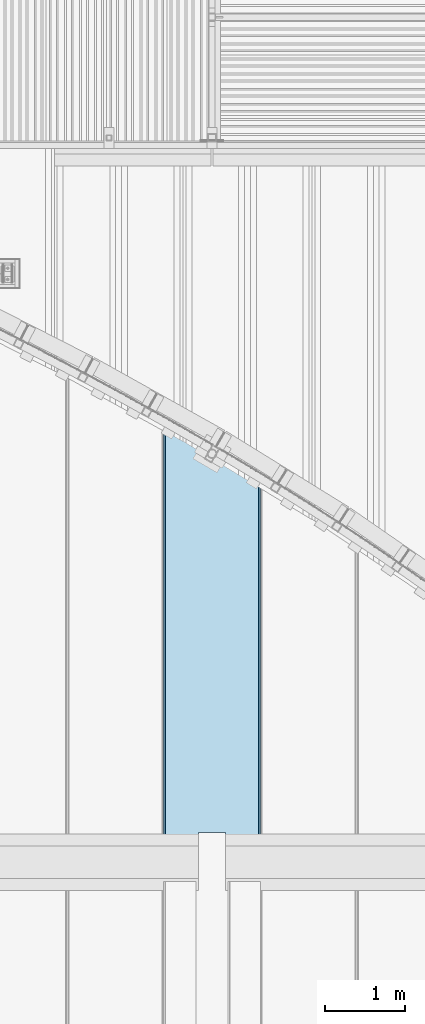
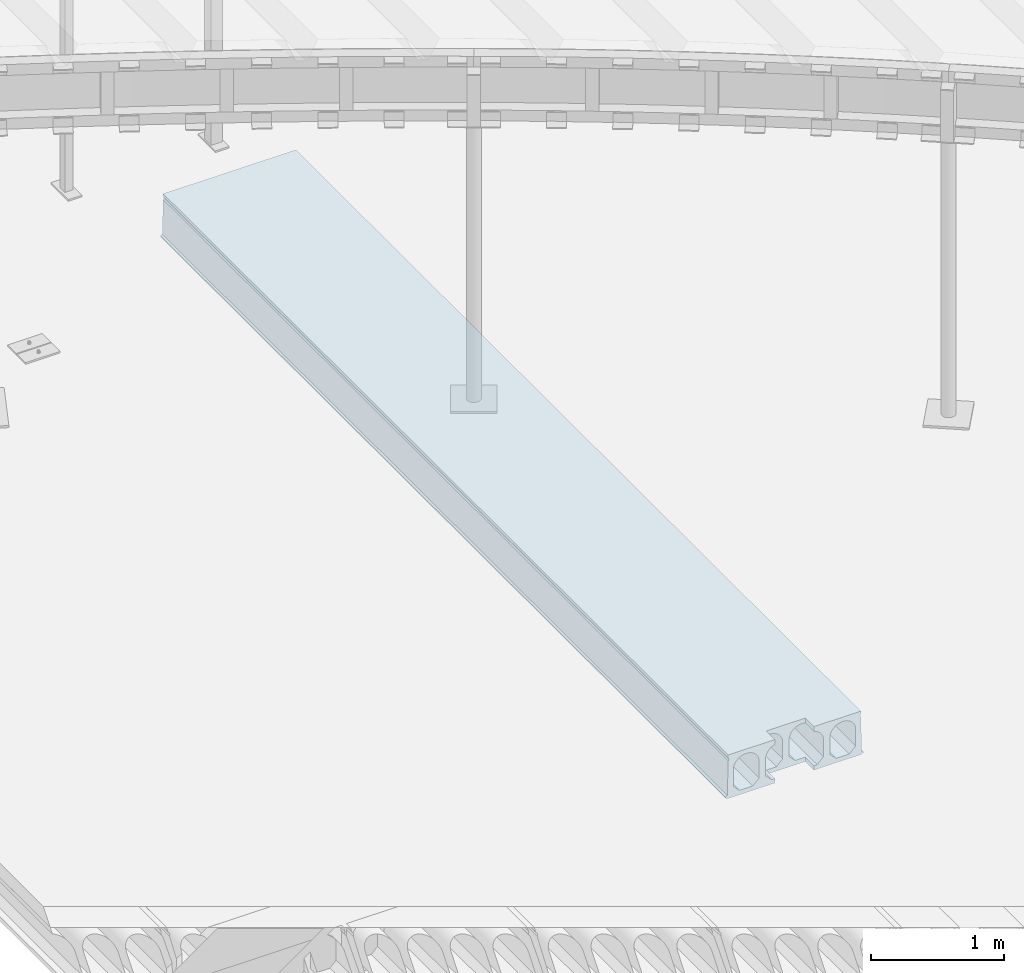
# One storey, part 57 of 98: 1 slab.
"""IFC2X3 building model written with IfcOpenShell, lengths in millimetres."""

from ifc_helpers import new_model, entity, si_unit, converted_unit, derived_unit, direction, frame, origin_with_axes, place, context, subcontext, project, spatial, faceted_brep, material, type_object, element, save


model = new_model("IFC2X3")

# Units and contexts
model_context = context("Model", 3, precision=0.01, world=frame((0.0, 4.29681676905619e-09, 0.0)), true_north=direction((4.01073788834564e-13, 1.0)))
plan_context = context("Plan", 3, precision=0.01, world=frame((0.0, 4.29681676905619e-09, 0.0)), true_north=direction((4.01073788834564e-13, 1.0)))
body_context = subcontext(model_context, "Body", "Model", "MODEL_VIEW")
ifc_project = project(units=[converted_unit("PLANEANGLEUNIT", "DEGREE", entity("IfcPositiveLengthMeasure", 0.0174532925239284), si_unit("PLANEANGLEUNIT", "RADIAN"), dimensions=[0, 0, 0, 0, 0, 0, 0]), si_unit("AREAUNIT", "SQUARE_METRE"), si_unit("LENGTHUNIT", "METRE", prefix="MILLI"), si_unit("MASSUNIT", "GRAM", prefix="KILO"), si_unit("POWERUNIT", "WATT"), si_unit("PRESSUREUNIT", "PASCAL"), si_unit("FORCEUNIT", "NEWTON", prefix="KILO"), si_unit("ELECTRICCURRENTUNIT", "AMPERE"), si_unit("THERMODYNAMICTEMPERATUREUNIT", "DEGREE_CELSIUS"), si_unit("TIMEUNIT", "SECOND"), si_unit("VOLUMEUNIT", "CUBIC_METRE"), derived_unit("LINEARVELOCITYUNIT", [(si_unit("LENGTHUNIT", "METRE"), 1), (si_unit("TIMEUNIT", "SECOND"), -1)]), derived_unit("VOLUMETRICFLOWRATEUNIT", [(si_unit("VOLUMEUNIT", "CUBIC_METRE"), 1), (si_unit("TIMEUNIT", "SECOND"), -1)]), derived_unit("THERMALTRANSMITTANCEUNIT", [(si_unit("POWERUNIT", "WATT"), 1), (si_unit("THERMODYNAMICTEMPERATUREUNIT", "KELVIN"), -1), (si_unit("AREAUNIT", "SQUARE_METRE"), -1)])], contexts=[model_context, plan_context])

# Site, building, storey
site_placement = place(None, frame((0.0, -4.29681676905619e-09, 0.0), z_axis=(0.0, 0.0, 1.0), x_axis=(1.0, 0.0, 0.0)))
site = spatial("IfcSite", under=ifc_project, at=site_placement, Name="Gardermoen", CompositionType="ELEMENT")
building_placement = place(site_placement, frame((0.0, 4.29681676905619e-09, 0.0), z_axis=(0.0, 0.0, 1.0), x_axis=(1.0, 0.0, 0.0)))
building = spatial("IfcBuilding", under=site, at=building_placement, Name="TS", CompositionType="ELEMENT")
storey_placement = place(building_placement, origin_with_axes())
storey = spatial("IfcBuildingStorey", under=building, at=storey_placement, Name="D", CompositionType="ELEMENT", Elevation=0.0)

# Slab
ifc_material = material(Name="CONCRETE/C45/55")
slab_type = type_object("IfcSlabType", Name="HD400", PredefinedType="NOTDEFINED")
slab_placement = place(storey_placement, frame((519999.999766, 405739.995625, 203600.0), z_axis=(0.0, 0.0, 1.0), x_axis=(0.0, 1.0, 0.0)))
element("IfcSlab", 1, at=slab_placement, inside=storey, type_object=slab_type, material=ifc_material, Name="HULLDEKKE", ObjectType="HD400", PredefinedType="FLOOR", context=body_context, shape_type="Brep", body=[
    faceted_brep([(0.0, 170.000043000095, 200.0), (0.0, 170.000043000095, 155.84810220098), (130.001160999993, 170.000043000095, 155.84810220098), (130.001160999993, 170.000043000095, 200.0), (0.0, 170.000043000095, -160.0), (0.0, 170.000043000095, -200.0), (130.001160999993, 170.000043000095, -200.0), (130.001160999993, 170.000043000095, -160.0), (130.001160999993, -169.999956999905, -160.0), (130.001160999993, -169.999956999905, -200.0), (0.0, -170.000323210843, -200.0), (0.0, -170.000323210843, -160.0), (130.001160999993, -169.999956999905, 200.0), (130.001160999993, -169.999956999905, 155.848127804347), (0.0, -170.000323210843, 155.848018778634), (0.0, -170.000323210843, 200.0), (130.001160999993, 167.617117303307, 156.55752991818), (130.001160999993, 158.516891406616, 158.465646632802), (130.001160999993, 149.290176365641, 159.615755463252), (130.001160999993, 140.0, 160.0), (130.001160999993, 130.709823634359, 159.615755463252), (130.001160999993, 121.483108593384, 158.465646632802), (130.001160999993, 112.382882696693, 156.55752991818), (130.001160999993, 103.471309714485, 153.904439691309), (130.001160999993, 94.8092647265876, 150.524499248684), (130.001160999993, 86.4559182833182, 146.440797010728), (130.001160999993, 78.4683322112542, 141.681228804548), (130.001160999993, 70.9010698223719, 136.278307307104), (130.001160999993, 63.8058231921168, 130.268939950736), (130.001160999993, 57.2310600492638, 123.694176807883), (130.001160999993, 51.2216926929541, 116.598930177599), (130.001160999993, 45.8187711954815, 109.031667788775), (130.001160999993, 41.0592029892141, 101.044081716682), (130.001160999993, 36.9755007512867, 92.6907352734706), (130.001160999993, 33.5955603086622, 84.028690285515), (130.001160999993, 30.942470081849, 75.1171173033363), (130.001160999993, 29.0343533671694, 66.0168914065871), (130.001160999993, 27.8842445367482, 56.7901763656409), (130.001160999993, 27.5, 47.5), (130.001160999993, 27.5, -105.0), (130.001160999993, 82.5, -160.0), (130.001160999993, -82.5, -160.0), (130.001160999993, -27.5, -105.0), (130.001160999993, -27.5, 47.5), (130.001160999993, -27.8842445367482, 56.7901763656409), (130.001160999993, -29.0343533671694, 66.0168914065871), (130.001160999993, -30.942470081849, 75.1171173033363), (130.001160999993, -33.5955603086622, 84.028690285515), (130.001160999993, -36.9755007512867, 92.6907352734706), (130.001160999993, -41.0592029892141, 101.044081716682), (130.001160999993, -45.8187711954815, 109.031667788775), (130.001160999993, -51.2216926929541, 116.598930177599), (130.001160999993, -57.2310600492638, 123.694176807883), (130.001160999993, -63.8058231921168, 130.268939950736), (130.001160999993, -70.9010698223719, 136.278307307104), (130.001160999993, -78.4683322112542, 141.681228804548), (130.001160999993, -86.4559182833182, 146.440797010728), (130.001160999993, -94.8092647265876, 150.524499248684), (130.001160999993, -103.471309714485, 153.904439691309), (130.001160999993, -112.382882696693, 156.55752991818), (130.001160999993, -121.483108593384, 158.465646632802), (130.001160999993, -130.709823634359, 159.615755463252), (130.001160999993, -140.0, 160.0), (130.001160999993, -149.290176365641, 159.615755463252), (130.001160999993, -158.516891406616, 158.465646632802), (130.001160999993, -167.617117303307, 156.55752991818), (0.0, -185.190735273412, 150.524499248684), (0.0, -176.528690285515, 153.904439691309), (8520.00875000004, -176.528690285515, 153.904439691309), (8520.00875000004, -185.190735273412, 150.524499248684), (0.0, -193.544081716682, 146.440797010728), (8520.00875000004, -193.544081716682, 146.440797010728), (0.0, -201.531667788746, 141.681228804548), (8520.00875000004, -201.531667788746, 141.681228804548), (0.0, -209.098930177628, 136.278307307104), (8520.00875000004, -209.098930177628, 136.278307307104), (0.0, -216.194176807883, 130.268939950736), (8520.00875000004, -216.194176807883, 130.268939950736), (0.0, -222.768939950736, 123.694176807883), (8520.00875000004, -222.768939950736, 123.694176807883), (0.0, -228.778307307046, 116.598930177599), (8520.00875000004, -228.778307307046, 116.598930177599), (0.0, -234.181228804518, 109.031667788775), (8520.00875000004, -234.181228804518, 109.031667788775), (0.0, -238.940797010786, 101.044081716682), (8520.00875000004, -238.940797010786, 101.044081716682), (0.0, -243.024499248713, 92.6907352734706), (8520.00875000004, -243.024499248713, 92.6907352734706), (0.0, -246.404439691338, 84.028690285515), (8520.00875000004, -246.404439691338, 84.028690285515), (0.0, -249.057529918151, 75.1171173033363), (8520.00875000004, -249.057529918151, 75.1171173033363), (0.0, -250.965646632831, 66.0168914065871), (8520.00875000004, -250.965646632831, 66.0168914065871), (0.0, -252.115755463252, 56.7901763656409), (8520.00875000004, -252.115755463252, 56.7901763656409), (0.0, -252.5, 47.5), (8520.00875000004, -252.5, 47.5), (0.0, -252.5, -105.0), (8520.00875000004, -252.5, -105.0), (0.0, -197.5, -160.0), (8520.00875000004, -197.5, -160.0), (0.0, 577.5, 175.0), (0.0, 577.5, 200.0), (8520.00875000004, 577.5, 200.0), (8520.00875000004, 577.5, 175.0), (0.0, 570.0, 160.0), (8520.00875000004, 570.0, 160.0), (0.0, 577.5, 145.0), (8520.00875000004, 577.5, 145.0), (0.0, 585.0, -170.0), (8520.00875000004, 585.0, -170.0), (0.0, 600.0, -180.0), (8520.00875000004, 600.0, -180.0), (0.0, 600.0, -190.0), (8520.00875000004, 600.0, -190.0), (0.0, 583.380004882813, -200.0), (8520.00875000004, 583.380004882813, -200.0), (8520.00875000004, -583.380004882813, -200.0), (0.0, -583.380004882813, -200.0), (0.0, -600.0, -190.0), (8520.00875000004, -600.0, -190.0), (0.0, -600.0, -180.0), (8520.00875000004, -600.0, -180.0), (0.0, -585.0, -170.0), (8520.00875000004, -585.0, -170.0), (0.0, -577.5, 145.0), (8520.00875000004, -577.5, 145.0), (0.0, -570.0, 160.0), (8520.00875000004, -570.0, 160.0), (0.0, -577.5, 175.0), (8520.00875000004, -577.5, 175.0), (0.0, -577.5, 200.0), (8520.00875000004, -577.5, 200.0), (0.0, -307.5, -105.0), (0.0, -362.5, -160.0), (8520.00875000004, -362.5, -160.0), (8520.00875000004, -307.5, -105.0), (0.0, -307.5, 47.5), (8520.00875000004, -307.5, 47.5), (0.0, -307.884244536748, 56.7901763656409), (8520.00875000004, -307.884244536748, 56.7901763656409), (0.0, -309.034353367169, 66.0168914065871), (8520.00875000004, -309.034353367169, 66.0168914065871), (0.0, -310.942470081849, 75.1171173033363), (8520.00875000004, -310.942470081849, 75.1171173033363), (0.0, -313.595560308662, 84.028690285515), (8520.00875000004, -313.595560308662, 84.028690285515), (0.0, -316.975500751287, 92.6907352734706), (8520.00875000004, -316.975500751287, 92.6907352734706), (0.0, -321.059202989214, 101.044081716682), (8520.00875000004, -321.059202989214, 101.044081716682), (0.0, -325.818771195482, 109.031667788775), (8520.00875000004, -325.818771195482, 109.031667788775), (0.0, -331.221692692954, 116.598930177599), (8520.00875000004, -331.221692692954, 116.598930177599), (0.0, -337.231060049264, 123.694176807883), (8520.00875000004, -337.231060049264, 123.694176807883), (0.0, -343.805823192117, 130.268939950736), (8520.00875000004, -343.805823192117, 130.268939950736), (0.0, -350.901069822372, 136.278307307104), (8520.00875000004, -350.901069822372, 136.278307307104), (0.0, -358.468332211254, 141.681228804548), (8520.00875000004, -358.468332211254, 141.681228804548), (0.0, -366.455918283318, 146.440797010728), (8520.00875000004, -366.455918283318, 146.440797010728), (0.0, -374.809264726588, 150.524499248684), (8520.00875000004, -374.809264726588, 150.524499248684), (0.0, -383.471309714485, 153.904439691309), (8520.00875000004, -383.471309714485, 153.904439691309), (0.0, -392.382882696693, 156.55752991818), (8520.00875000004, -392.382882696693, 156.55752991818), (0.0, -401.483108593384, 158.465646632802), (8520.00875000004, -401.483108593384, 158.465646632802), (0.0, -410.709823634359, 159.615755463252), (8520.00875000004, -410.709823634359, 159.615755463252), (0.0, -420.0, 160.0), (8520.00875000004, -420.0, 160.0), (0.0, -429.290176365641, 159.615755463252), (8520.00875000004, -429.290176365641, 159.615755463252), (0.0, -438.516891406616, 158.465646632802), (8520.00875000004, -438.516891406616, 158.465646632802), (0.0, -447.617117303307, 156.55752991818), (8520.00875000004, -447.617117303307, 156.55752991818), (0.0, -456.528690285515, 153.904439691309), (8520.00875000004, -456.528690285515, 153.904439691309), (0.0, -465.190735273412, 150.524499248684), (8520.00875000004, -465.190735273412, 150.524499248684), (0.0, -473.544081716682, 146.440797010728), (8520.00875000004, -473.544081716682, 146.440797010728), (0.0, -481.531667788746, 141.681228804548), (8520.00875000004, -481.531667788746, 141.681228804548), (0.0, -489.098930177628, 136.278307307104), (8520.00875000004, -489.098930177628, 136.278307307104), (0.0, -496.194176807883, 130.268939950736), (8520.00875000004, -496.194176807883, 130.268939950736), (0.0, -502.768939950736, 123.694176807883), (8520.00875000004, -502.768939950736, 123.694176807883), (0.0, -508.778307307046, 116.598930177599), (8520.00875000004, -508.778307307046, 116.598930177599), (0.0, -514.181228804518, 109.031667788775), (8520.00875000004, -514.181228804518, 109.031667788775), (0.0, -518.940797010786, 101.044081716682), (8520.00875000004, -518.940797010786, 101.044081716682), (0.0, -523.024499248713, 92.6907352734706), (8520.00875000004, -523.024499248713, 92.6907352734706), (0.0, -526.404439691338, 84.028690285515), (8520.00875000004, -526.404439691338, 84.028690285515), (0.0, -529.057529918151, 75.1171173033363), (8520.00875000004, -529.057529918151, 75.1171173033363), (0.0, -530.965646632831, 66.0168914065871), (8520.00875000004, -530.965646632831, 66.0168914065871), (0.0, -532.115755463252, 56.7901763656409), (8520.00875000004, -532.115755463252, 56.7901763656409), (0.0, -532.5, 47.5), (8520.00875000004, -532.5, 47.5), (0.0, -532.5, -105.0), (8520.00875000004, -532.5, -105.0), (0.0, -477.5, -160.0), (8520.00875000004, -477.5, -160.0), (8520.00875000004, -167.617117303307, 156.55752991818), (8520.00875000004, -158.516891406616, 158.465646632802), (8520.00875000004, -149.290176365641, 159.615755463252), (8520.00875000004, -140.0, 160.0), (8520.00875000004, -130.709823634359, 159.615755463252), (8520.00875000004, -121.483108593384, 158.465646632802), (8520.00875000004, -112.382882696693, 156.55752991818), (8520.00875000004, -103.471309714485, 153.904439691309), (8520.00875000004, -94.8092647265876, 150.524499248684), (8520.00875000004, -86.4559182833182, 146.440797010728), (8520.00875000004, -78.4683322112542, 141.681228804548), (8520.00875000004, -70.9010698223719, 136.278307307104), (8520.00875000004, -63.8058231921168, 130.268939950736), (8520.00875000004, -57.2310600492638, 123.694176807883), (8520.00875000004, -51.2216926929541, 116.598930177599), (8520.00875000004, -45.8187711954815, 109.031667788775), (8520.00875000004, -41.0592029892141, 101.044081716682), (8520.00875000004, -36.9755007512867, 92.6907352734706), (8520.00875000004, -33.5955603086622, 84.028690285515), (8520.00875000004, -30.942470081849, 75.1171173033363), (8520.00875000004, -29.0343533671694, 66.0168914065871), (8520.00875000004, -27.8842445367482, 56.7901763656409), (8520.00875000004, -27.5, 47.5), (8520.00875000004, -27.5, -105.0), (8520.00875000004, -82.5, -160.0), (8520.00875000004, 27.5, -105.0), (8520.00875000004, 82.5, -160.0), (8520.00875000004, 27.5, 47.5), (8520.00875000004, 27.8842445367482, 56.7901763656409), (8520.00875000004, 29.0343533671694, 66.0168914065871), (8520.00875000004, 30.942470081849, 75.1171173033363), (8520.00875000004, 33.5955603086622, 84.028690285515), (8520.00875000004, 36.9755007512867, 92.6907352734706), (8520.00875000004, 41.0592029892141, 101.044081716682), (8520.00875000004, 45.8187711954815, 109.031667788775), (8520.00875000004, 51.2216926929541, 116.598930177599), (8520.00875000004, 57.2310600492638, 123.694176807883), (8520.00875000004, 63.8058231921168, 130.268939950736), (8520.00875000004, 70.9010698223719, 136.278307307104), (8520.00875000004, 78.4683322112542, 141.681228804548), (8520.00875000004, 86.4559182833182, 146.440797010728), (8520.00875000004, 94.8092647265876, 150.524499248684), (8520.00875000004, 103.471309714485, 153.904439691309), (8520.00875000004, 112.382882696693, 156.55752991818), (8520.00875000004, 121.483108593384, 158.465646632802), (8520.00875000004, 130.709823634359, 159.615755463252), (8520.00875000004, 140.0, 160.0), (8520.00875000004, 149.290176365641, 159.615755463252), (8520.00875000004, 158.516891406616, 158.465646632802), (8520.00875000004, 167.617117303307, 156.55752991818), (0.0, 176.528690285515, 153.904439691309), (8520.00875000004, 176.528690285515, 153.904439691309), (0.0, 185.190735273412, 150.524499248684), (8520.00875000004, 185.190735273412, 150.524499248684), (0.0, 193.544081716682, 146.440797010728), (8520.00875000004, 193.544081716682, 146.440797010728), (0.0, 201.531667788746, 141.681228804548), (8520.00875000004, 201.531667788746, 141.681228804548), (0.0, 209.098930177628, 136.278307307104), (8520.00875000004, 209.098930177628, 136.278307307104), (0.0, 216.194176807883, 130.268939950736), (8520.00875000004, 216.194176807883, 130.268939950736), (0.0, 222.768939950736, 123.694176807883), (8520.00875000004, 222.768939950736, 123.694176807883), (0.0, 228.778307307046, 116.598930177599), (8520.00875000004, 228.778307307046, 116.598930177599), (0.0, 234.181228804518, 109.031667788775), (8520.00875000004, 234.181228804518, 109.031667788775), (0.0, 238.940797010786, 101.044081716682), (8520.00875000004, 238.940797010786, 101.044081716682), (0.0, 243.024499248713, 92.6907352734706), (8520.00875000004, 243.024499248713, 92.6907352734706), (0.0, 246.404439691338, 84.028690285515), (8520.00875000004, 246.404439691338, 84.028690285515), (0.0, 249.057529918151, 75.1171173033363), (8520.00875000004, 249.057529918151, 75.1171173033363), (0.0, 250.965646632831, 66.0168914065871), (8520.00875000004, 250.965646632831, 66.0168914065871), (0.0, 252.115755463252, 56.7901763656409), (8520.00875000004, 252.115755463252, 56.7901763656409), (0.0, 252.5, 47.5), (8520.00875000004, 252.5, 47.5), (0.0, 252.5, -105.0), (8520.00875000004, 252.5, -105.0), (0.0, 197.5, -160.0), (8520.00875000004, 197.5, -160.0), (0.0, 362.5, -160.0), (0.0, 307.5, -105.0), (8520.00875000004, 307.5, -105.0), (8520.00875000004, 362.5, -160.0), (0.0, 307.5, 47.5), (8520.00875000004, 307.5, 47.5), (0.0, 307.884244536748, 56.7901763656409), (8520.00875000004, 307.884244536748, 56.7901763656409), (0.0, 309.034353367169, 66.0168914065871), (8520.00875000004, 309.034353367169, 66.0168914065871), (0.0, 310.942470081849, 75.1171173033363), (8520.00875000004, 310.942470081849, 75.1171173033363), (0.0, 313.595560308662, 84.028690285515), (8520.00875000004, 313.595560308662, 84.028690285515), (0.0, 316.975500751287, 92.6907352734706), (8520.00875000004, 316.975500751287, 92.6907352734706), (0.0, 321.059202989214, 101.044081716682), (8520.00875000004, 321.059202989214, 101.044081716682), (0.0, 325.818771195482, 109.031667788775), (8520.00875000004, 325.818771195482, 109.031667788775), (0.0, 331.221692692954, 116.598930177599), (8520.00875000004, 331.221692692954, 116.598930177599), (0.0, 337.231060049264, 123.694176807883), (8520.00875000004, 337.231060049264, 123.694176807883), (0.0, 343.805823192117, 130.268939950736), (8520.00875000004, 343.805823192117, 130.268939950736), (0.0, 350.901069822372, 136.278307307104), (8520.00875000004, 350.901069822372, 136.278307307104), (0.0, 358.468332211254, 141.681228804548), (8520.00875000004, 358.468332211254, 141.681228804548), (0.0, 366.455918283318, 146.440797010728), (8520.00875000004, 366.455918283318, 146.440797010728), (0.0, 374.809264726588, 150.524499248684), (8520.00875000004, 374.809264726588, 150.524499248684), (0.0, 383.471309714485, 153.904439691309), (8520.00875000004, 383.471309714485, 153.904439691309), (0.0, 392.382882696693, 156.55752991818), (8520.00875000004, 392.382882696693, 156.55752991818), (0.0, 401.483108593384, 158.465646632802), (8520.00875000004, 401.483108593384, 158.465646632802), (0.0, 410.709823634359, 159.615755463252), (8520.00875000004, 410.709823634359, 159.615755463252), (0.0, 420.0, 160.0), (8520.00875000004, 420.0, 160.0), (0.0, 429.290176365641, 159.615755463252), (8520.00875000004, 429.290176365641, 159.615755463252), (0.0, 438.516891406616, 158.465646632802), (8520.00875000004, 438.516891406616, 158.465646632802), (0.0, 447.617117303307, 156.55752991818), (8520.00875000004, 447.617117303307, 156.55752991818), (0.0, 456.528690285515, 153.904439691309), (8520.00875000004, 456.528690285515, 153.904439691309), (0.0, 465.190735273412, 150.524499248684), (8520.00875000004, 465.190735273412, 150.524499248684), (0.0, 473.544081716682, 146.440797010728), (8520.00875000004, 473.544081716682, 146.440797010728), (0.0, 481.531667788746, 141.681228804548), (8520.00875000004, 481.531667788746, 141.681228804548), (0.0, 489.098930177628, 136.278307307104), (8520.00875000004, 489.098930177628, 136.278307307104), (0.0, 496.194176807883, 130.268939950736), (8520.00875000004, 496.194176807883, 130.268939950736), (0.0, 502.768939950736, 123.694176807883), (8520.00875000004, 502.768939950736, 123.694176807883), (0.0, 508.778307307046, 116.598930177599), (8520.00875000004, 508.778307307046, 116.598930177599), (0.0, 514.181228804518, 109.031667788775), (8520.00875000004, 514.181228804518, 109.031667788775), (0.0, 518.940797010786, 101.044081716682), (8520.00875000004, 518.940797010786, 101.044081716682), (0.0, 523.024499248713, 92.6907352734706), (8520.00875000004, 523.024499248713, 92.6907352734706), (0.0, 526.404439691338, 84.028690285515), (8520.00875000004, 526.404439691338, 84.028690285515), (0.0, 529.057529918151, 75.1171173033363), (8520.00875000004, 529.057529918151, 75.1171173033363), (0.0, 530.965646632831, 66.0168914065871), (8520.00875000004, 530.965646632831, 66.0168914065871), (0.0, 532.115755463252, 56.7901763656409), (8520.00875000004, 532.115755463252, 56.7901763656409), (0.0, 532.5, 47.5), (8520.00875000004, 532.5, 47.5), (0.0, 532.5, -105.0), (8520.00875000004, 532.5, -105.0), (0.0, 477.5, -160.0), (8520.00875000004, 477.5, -160.0)], [[[0, 1, 2, 3]], [[4, 5, 6, 7]], [[8, 9, 10, 11]], [[12, 13, 14, 15]], [[3, 2, 16, 17, 18, 19, 20, 21, 22, 23, 24, 25, 26, 27, 28, 29, 30, 31, 32, 33, 34, 35, 36, 37, 38, 39, 40, 7, 6, 9, 8, 41, 42, 43, 44, 45, 46, 47, 48, 49, 50, 51, 52, 53, 54, 55, 56, 57, 58, 59, 60, 61, 62, 63, 64, 65, 13, 12]], [[66, 67, 68, 69]], [[70, 66, 69, 71]], [[72, 70, 71, 73]], [[74, 72, 73, 75]], [[76, 74, 75, 77]], [[78, 76, 77, 79]], [[80, 78, 79, 81]], [[82, 80, 81, 83]], [[84, 82, 83, 85]], [[86, 84, 85, 87]], [[88, 86, 87, 89]], [[90, 88, 89, 91]], [[92, 90, 91, 93]], [[94, 92, 93, 95]], [[96, 94, 95, 97]], [[98, 96, 97, 99]], [[100, 98, 99, 101]], [[102, 103, 104, 105]], [[106, 102, 105, 107]], [[108, 106, 107, 109]], [[110, 108, 109, 111]], [[112, 110, 111, 113]], [[114, 112, 113, 115]], [[116, 114, 115, 117]], [[5, 116, 117, 118, 119, 10, 9, 6]], [[120, 119, 118, 121]], [[122, 120, 121, 123]], [[124, 122, 123, 125]], [[126, 124, 125, 127]], [[128, 126, 127, 129]], [[130, 128, 129, 131]], [[132, 130, 131, 133]], [[134, 135, 136, 137]], [[138, 134, 137, 139]], [[140, 138, 139, 141]], [[142, 140, 141, 143]], [[144, 142, 143, 145]], [[146, 144, 145, 147]], [[148, 146, 147, 149]], [[150, 148, 149, 151]], [[152, 150, 151, 153]], [[154, 152, 153, 155]], [[156, 154, 155, 157]], [[158, 156, 157, 159]], [[160, 158, 159, 161]], [[162, 160, 161, 163]], [[164, 162, 163, 165]], [[166, 164, 165, 167]], [[168, 166, 167, 169]], [[170, 168, 169, 171]], [[172, 170, 171, 173]], [[174, 172, 173, 175]], [[176, 174, 175, 177]], [[178, 176, 177, 179]], [[180, 178, 179, 181]], [[182, 180, 181, 183]], [[184, 182, 183, 185]], [[186, 184, 185, 187]], [[188, 186, 187, 189]], [[190, 188, 189, 191]], [[192, 190, 191, 193]], [[194, 192, 193, 195]], [[196, 194, 195, 197]], [[198, 196, 197, 199]], [[200, 198, 199, 201]], [[202, 200, 201, 203]], [[204, 202, 203, 205]], [[206, 204, 205, 207]], [[208, 206, 207, 209]], [[210, 208, 209, 211]], [[212, 210, 211, 213]], [[214, 212, 213, 215]], [[216, 214, 215, 217]], [[218, 216, 217, 219]], [[135, 218, 219, 136]], [[67, 66, 70, 72, 74, 76, 78, 80, 82, 84, 86, 88, 90, 92, 94, 96, 98, 100, 11, 10, 119, 120, 122, 124, 126, 128, 130, 132, 15, 14], [134, 138, 140, 142, 144, 146, 148, 150, 152, 154, 156, 158, 160, 162, 164, 166, 168, 170, 172, 174, 176, 178, 180, 182, 184, 186, 188, 190, 192, 194, 196, 198, 200, 202, 204, 206, 208, 210, 212, 214, 216, 218, 135]], [[220, 68, 67, 14, 13, 65]], [[221, 220, 65, 64]], [[222, 221, 64, 63]], [[223, 222, 63, 62]], [[224, 223, 62, 61]], [[225, 224, 61, 60]], [[226, 225, 60, 59]], [[227, 226, 59, 58]], [[228, 227, 58, 57]], [[229, 228, 57, 56]], [[230, 229, 56, 55]], [[231, 230, 55, 54]], [[232, 231, 54, 53]], [[233, 232, 53, 52]], [[234, 233, 52, 51]], [[235, 234, 51, 50]], [[236, 235, 50, 49]], [[237, 236, 49, 48]], [[238, 237, 48, 47]], [[239, 238, 47, 46]], [[240, 239, 46, 45]], [[241, 240, 45, 44]], [[242, 241, 44, 43]], [[243, 242, 43, 42]], [[244, 243, 42, 41]], [[100, 101, 244, 41, 8, 11]], [[245, 246, 40, 39]], [[247, 245, 39, 38]], [[248, 247, 38, 37]], [[249, 248, 37, 36]], [[250, 249, 36, 35]], [[251, 250, 35, 34]], [[252, 251, 34, 33]], [[253, 252, 33, 32]], [[254, 253, 32, 31]], [[255, 254, 31, 30]], [[256, 255, 30, 29]], [[257, 256, 29, 28]], [[258, 257, 28, 27]], [[259, 258, 27, 26]], [[260, 259, 26, 25]], [[261, 260, 25, 24]], [[262, 261, 24, 23]], [[263, 262, 23, 22]], [[264, 263, 22, 21]], [[265, 264, 21, 20]], [[266, 265, 20, 19]], [[267, 266, 19, 18]], [[268, 267, 18, 17]], [[269, 268, 17, 16]], [[1, 270, 271, 269, 16, 2]], [[270, 272, 273, 271]], [[272, 274, 275, 273]], [[274, 276, 277, 275]], [[276, 278, 279, 277]], [[278, 280, 281, 279]], [[280, 282, 283, 281]], [[282, 284, 285, 283]], [[284, 286, 287, 285]], [[286, 288, 289, 287]], [[288, 290, 291, 289]], [[290, 292, 293, 291]], [[292, 294, 295, 293]], [[294, 296, 297, 295]], [[296, 298, 299, 297]], [[298, 300, 301, 299]], [[300, 302, 303, 301]], [[302, 304, 305, 303]], [[246, 305, 304, 4, 7, 40]], [[306, 307, 308, 309]], [[307, 310, 311, 308]], [[310, 312, 313, 311]], [[312, 314, 315, 313]], [[314, 316, 317, 315]], [[316, 318, 319, 317]], [[318, 320, 321, 319]], [[320, 322, 323, 321]], [[322, 324, 325, 323]], [[324, 326, 327, 325]], [[326, 328, 329, 327]], [[328, 330, 331, 329]], [[330, 332, 333, 331]], [[332, 334, 335, 333]], [[334, 336, 337, 335]], [[336, 338, 339, 337]], [[338, 340, 341, 339]], [[340, 342, 343, 341]], [[342, 344, 345, 343]], [[344, 346, 347, 345]], [[346, 348, 349, 347]], [[348, 350, 351, 349]], [[350, 352, 353, 351]], [[352, 354, 355, 353]], [[354, 356, 357, 355]], [[356, 358, 359, 357]], [[358, 360, 361, 359]], [[360, 362, 363, 361]], [[362, 364, 365, 363]], [[364, 366, 367, 365]], [[366, 368, 369, 367]], [[368, 370, 371, 369]], [[370, 372, 373, 371]], [[372, 374, 375, 373]], [[374, 376, 377, 375]], [[376, 378, 379, 377]], [[378, 380, 381, 379]], [[380, 382, 383, 381]], [[382, 384, 385, 383]], [[384, 386, 387, 385]], [[386, 388, 389, 387]], [[388, 390, 391, 389]], [[111, 109, 107, 105, 104, 133, 131, 129, 127, 125, 123, 121, 118, 117, 115, 113], [308, 311, 313, 315, 317, 319, 321, 323, 325, 327, 329, 331, 333, 335, 337, 339, 341, 343, 345, 347, 349, 351, 353, 355, 357, 359, 361, 363, 365, 367, 369, 371, 373, 375, 377, 379, 381, 383, 385, 387, 389, 391, 309], [245, 247, 248, 249, 250, 251, 252, 253, 254, 255, 256, 257, 258, 259, 260, 261, 262, 263, 264, 265, 266, 267, 268, 269, 271, 273, 275, 277, 279, 281, 283, 285, 287, 289, 291, 293, 295, 297, 299, 301, 303, 305, 246], [99, 97, 95, 93, 91, 89, 87, 85, 83, 81, 79, 77, 75, 73, 71, 69, 68, 220, 221, 222, 223, 224, 225, 226, 227, 228, 229, 230, 231, 232, 233, 234, 235, 236, 237, 238, 239, 240, 241, 242, 243, 244, 101], [217, 215, 213, 211, 209, 207, 205, 203, 201, 199, 197, 195, 193, 191, 189, 187, 185, 183, 181, 179, 177, 175, 173, 171, 169, 167, 165, 163, 161, 159, 157, 155, 153, 151, 149, 147, 145, 143, 141, 139, 137, 136, 219]], [[390, 306, 309, 391]], [[103, 102, 106, 108, 110, 112, 114, 116, 5, 4, 304, 302, 300, 298, 296, 294, 292, 290, 288, 286, 284, 282, 280, 278, 276, 274, 272, 270, 1, 0], [388, 386, 384, 382, 380, 378, 376, 374, 372, 370, 368, 366, 364, 362, 360, 358, 356, 354, 352, 350, 348, 346, 344, 342, 340, 338, 336, 334, 332, 330, 328, 326, 324, 322, 320, 318, 316, 314, 312, 310, 307, 306, 390]], [[132, 133, 104, 103, 0, 3, 12, 15]]]),
])

save(model, "model.ifc")
